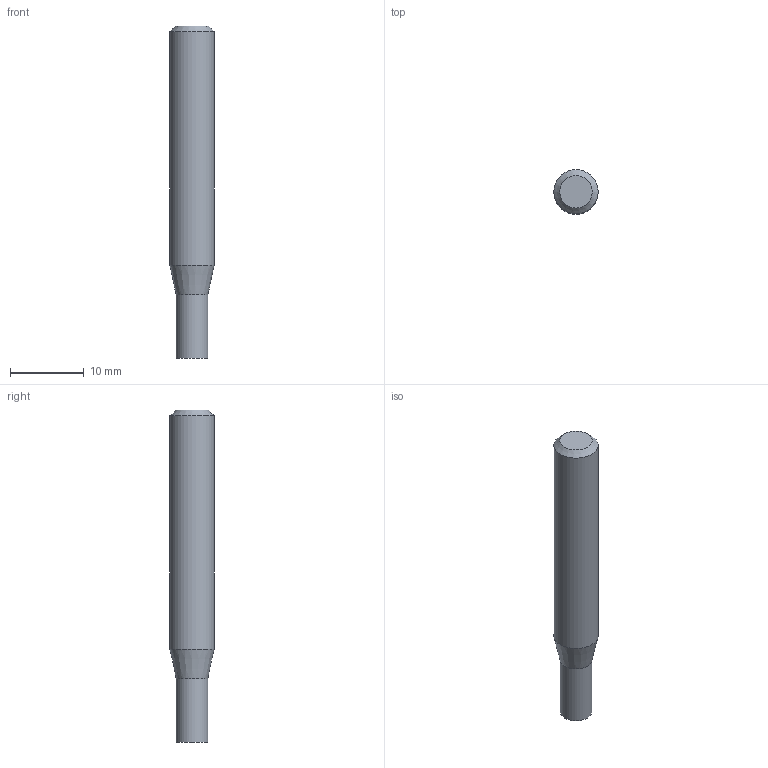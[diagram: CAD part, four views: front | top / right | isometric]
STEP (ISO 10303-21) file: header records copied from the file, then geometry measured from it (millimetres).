
FILE_DESCRIPTION((''),'2;1');
FILE_NAME('C:\Users\nsx150\AppData\Local\Temp\Mastercam 2021\E36A1X9CCL\TEMP.step','2023-04-21T15:12:57',(''),(''),'STEP Write','Mastercam 2021 ... CNC Software, Inc.','');
FILE_SCHEMA(('AUTOMOTIVE_DESIGN'));
Length unit declared in the file: millimetre
Products named in the file (1): None
Bounding box: 6 x 6 x 45 mm (x, y, z)
Volume: 1119.6 mm3; surface area: 855.2 mm2
Topology: 2 solids, 2 shells, 8 faces, 10 edges, 6 vertices
Faces by surface type: plane 4, cylinder 2, cone 2
Full cylindrical faces by diameter (mm): 4.3 x1, 6 x1
Entity records: 190 total; most frequent: DIRECTION 32, CARTESIAN_POINT 22, AXIS2_PLACEMENT_3D 16, ORIENTED_EDGE 12, EDGE_LOOP 12, STYLED_ITEM 11, ADVANCED_FACE 8, VERTEX_POINT 6
